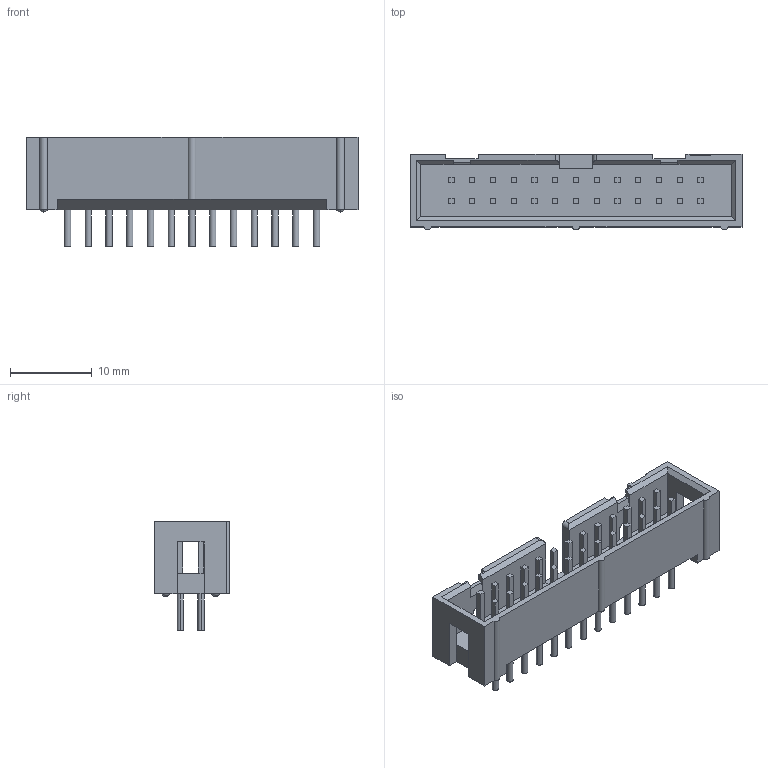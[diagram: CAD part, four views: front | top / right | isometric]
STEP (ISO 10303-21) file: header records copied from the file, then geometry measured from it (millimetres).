
FILE_DESCRIPTION(('STEP AP242'),'1');
FILE_NAME('2-1761679-9.stp','2021-09-04T07:53:11',('TraceParts'),('TraceParts S.A.'),'Spatial InterOp 3D',' ',' ');
FILE_SCHEMA(('AP242_MANAGED_MODEL_BASED_3D_ENGINEERING_MIM_LF {1 0 10303 442 1 1 4}'));
Length unit declared in the file: millimetre
Products named in the file (1): 2-1761679-9
Bounding box: 40.64 x 9.22 x 13.41 mm (x, y, z)
Volume: 1582.1 mm3; surface area: 2776.4 mm2
Topology: 1 solids, 1 shells, 294 faces, 728 edges, 475 vertices
Faces by surface type: plane 225, cylinder 59, sphere 10
Entity records: 8609 total; most frequent: CARTESIAN_POINT 1500, DIRECTION 1442, ORIENTED_EDGE 1436, EDGE_CURVE 718, LINE 580, VECTOR 580, VERTEX_POINT 475, AXIS2_PLACEMENT_3D 431
